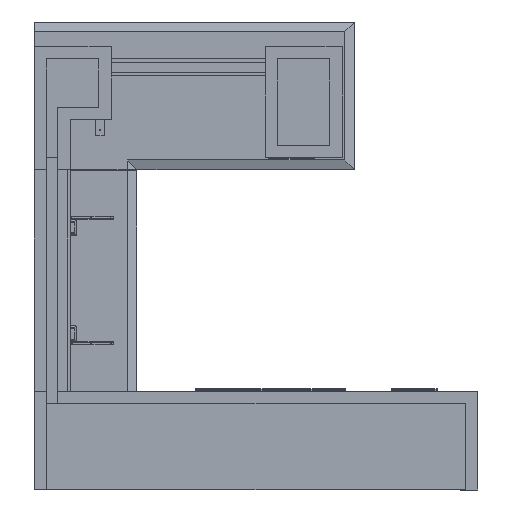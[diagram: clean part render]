
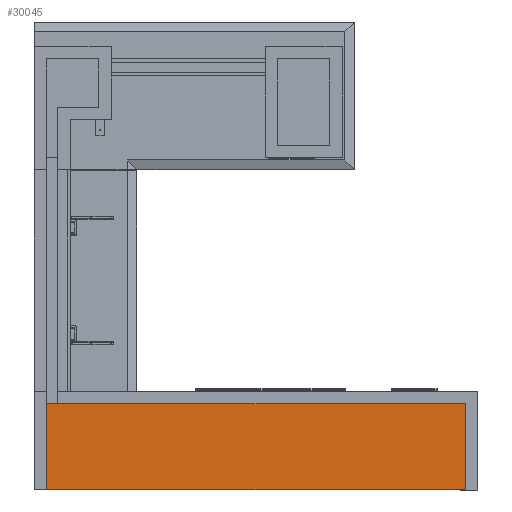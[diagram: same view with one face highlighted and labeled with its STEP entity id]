
A CAD part, front view. The second image highlights one B-rep face of the part: STEP entity #30045.
In plain terms, the highlighted planar face has unit normal (0, -1, 0).
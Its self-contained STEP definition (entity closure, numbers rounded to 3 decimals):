
#5191=FACE_OUTER_BOUND('',#6848,.T.);
#6848=EDGE_LOOP('',(#21254,#21255,#21256,#21257));
#8686=LINE('',#44144,#11456);
#8690=LINE('',#44153,#11460);
#8692=LINE('',#44157,#11462);
#8694=LINE('',#44160,#11464);
#11456=VECTOR('',#35623,0.394);
#11460=VECTOR('',#35631,0.394);
#11462=VECTOR('',#35635,0.394);
#11464=VECTOR('',#35639,0.394);
#14166=VERTEX_POINT('',#44138);
#14168=VERTEX_POINT('',#44142);
#14171=VERTEX_POINT('',#44152);
#14172=VERTEX_POINT('',#44156);
#16883=EDGE_CURVE('',#14166,#14168,#8686,.T.);
#16887=EDGE_CURVE('',#14171,#14166,#8690,.T.);
#16889=EDGE_CURVE('',#14172,#14171,#8692,.T.);
#16891=EDGE_CURVE('',#14168,#14172,#8694,.T.);
#21254=ORIENTED_EDGE('',*,*,#16883,.T.);
#21255=ORIENTED_EDGE('',*,*,#16891,.T.);
#21256=ORIENTED_EDGE('',*,*,#16889,.T.);
#21257=ORIENTED_EDGE('',*,*,#16887,.T.);
#28992=PLANE('',#32354);
#30045=ADVANCED_FACE('',(#5191),#28992,.T.);
#32354=AXIS2_PLACEMENT_3D('',#44159,#35637,#35638);
#35623=DIRECTION('',(0.,0.,-1.));
#35631=DIRECTION('',(-1.,0.,0.));
#35635=DIRECTION('',(0.,0.,1.));
#35637=DIRECTION('center_axis',(0.,-1.,0.));
#35638=DIRECTION('ref_axis',(0.,0.,-1.));
#35639=DIRECTION('',(1.,0.,0.));
#44138=CARTESIAN_POINT('',(2.25,-3.75,21.));
#44142=CARTESIAN_POINT('',(2.25,-3.75,0.));
#44144=CARTESIAN_POINT('',(2.25,-3.75,11.063));
#44152=CARTESIAN_POINT('',(104.25,-3.75,21.));
#44153=CARTESIAN_POINT('',(53.063,-3.75,21.));
#44156=CARTESIAN_POINT('',(104.25,-3.75,0.));
#44157=CARTESIAN_POINT('',(104.25,-3.75,11.063));
#44159=CARTESIAN_POINT('Origin',(52.875,-3.75,11.625));
#44160=CARTESIAN_POINT('',(-0.75,-3.75,0.));
